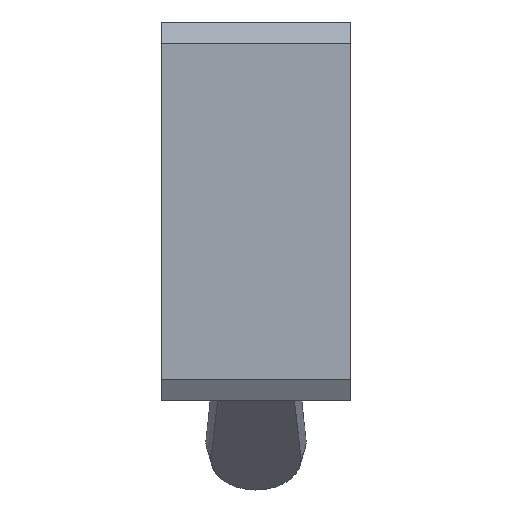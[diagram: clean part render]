
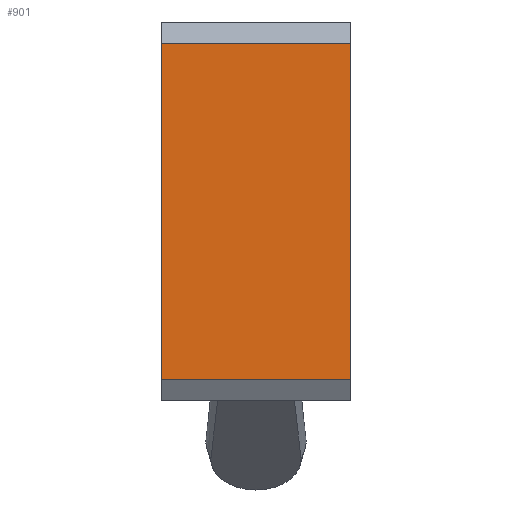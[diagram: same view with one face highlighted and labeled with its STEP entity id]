
A CAD part, front view. The second image highlights one B-rep face of the part: STEP entity #901.
In plain terms, the highlighted planar face has unit normal (0, -1, 0).
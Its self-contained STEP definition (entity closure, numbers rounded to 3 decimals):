
#55=PLANE('',#993);
#87=LINE('',#1562,#150);
#94=LINE('',#1580,#157);
#105=LINE('',#1601,#168);
#108=LINE('',#1610,#171);
#150=VECTOR('',#1115,1000.);
#157=VECTOR('',#1128,1000.);
#168=VECTOR('',#1141,1000.);
#171=VECTOR('',#1150,1000.);
#220=FACE_OUTER_BOUND('',#278,.T.);
#278=EDGE_LOOP('',(#666,#667,#668,#669));
#421=VERTEX_POINT('',#1559);
#422=VERTEX_POINT('',#1561);
#430=VERTEX_POINT('',#1579);
#439=VERTEX_POINT('',#1600);
#506=EDGE_CURVE('',#421,#422,#87,.T.);
#515=EDGE_CURVE('',#422,#430,#94,.T.);
#526=EDGE_CURVE('',#430,#439,#105,.T.);
#531=EDGE_CURVE('',#439,#421,#108,.T.);
#666=ORIENTED_EDGE('',*,*,#506,.F.);
#667=ORIENTED_EDGE('',*,*,#531,.F.);
#668=ORIENTED_EDGE('',*,*,#526,.F.);
#669=ORIENTED_EDGE('',*,*,#515,.F.);
#901=ADVANCED_FACE('',(#220),#55,.F.);
#993=AXIS2_PLACEMENT_3D('',#1612,#1152,#1153);
#1115=DIRECTION('',(0.,0.,1.));
#1128=DIRECTION('',(1.,0.,0.));
#1141=DIRECTION('',(0.,0.,-1.));
#1150=DIRECTION('',(-1.,0.,0.));
#1152=DIRECTION('center_axis',(0.,1.,0.));
#1153=DIRECTION('ref_axis',(0.,0.,1.));
#1559=CARTESIAN_POINT('',(0.,0.,2.));
#1561=CARTESIAN_POINT('',(0.,0.,34.));
#1562=CARTESIAN_POINT('',(0.,0.,2.));
#1579=CARTESIAN_POINT('',(18.,0.,34.));
#1580=CARTESIAN_POINT('',(0.,0.,34.));
#1600=CARTESIAN_POINT('',(18.,0.,2.));
#1601=CARTESIAN_POINT('',(18.,0.,34.));
#1610=CARTESIAN_POINT('',(18.,0.,2.));
#1612=CARTESIAN_POINT('Origin',(0.,0.,0.));
